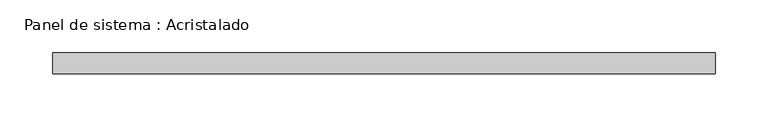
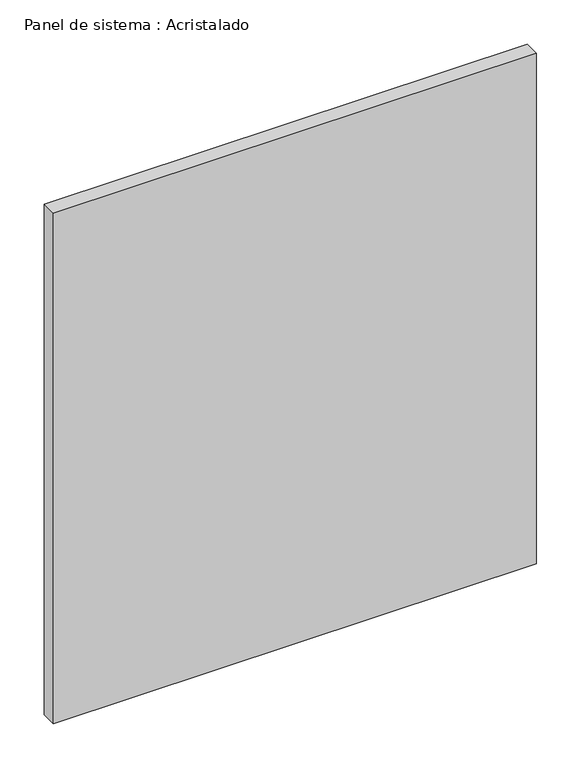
"""IFC4 building model written with IfcOpenShell, lengths in millimetres: plate geometry, Panel de sistema : Acristalado."""

from ifc_helpers import new_model, si_unit, origin, origin_with_axes, place, context, project, spatial, polyline, outline, extrude, source, transform, mapped, element, save


def panel_de_sistema_acristalado_f35fc141(model_context):
    return source(origin(), model_context, "Body", "SweptSolid", [
        extrude(outline(polyline([(313.3333334, -10.0), (-313.3333334, -10.0), (-313.3333334, 10.0), (313.3333334, 10.0), (313.3333334, -10.0)])), origin_with_axes(), (0.0, 0.0, 1.0), 700.0),
    ])


if __name__ == "__main__":
    model = new_model("IFC4")
    model_context = context("Model", 3, world=origin())
    ifc_project = project(units=[si_unit("LENGTHUNIT", "METRE", prefix="MILLI")], contexts=[model_context])
    site = spatial("IfcSite", under=ifc_project)
    building = spatial("IfcBuilding", under=site)
    placement = place(None, origin())
    panel_de_sistema_acristalado_shape = panel_de_sistema_acristalado_f35fc141(model_context)
    element("IfcPlate", 1, ObjectType="Panel de sistema : Acristalado", at=placement, inside=building, context=model_context, shape_type="MappedRepresentation", body=[
        mapped(panel_de_sistema_acristalado_shape, transform((0.0, 0.0, 0.0), x_axis=(1.0, 0.0, 0.0), y_axis=(0.0, 1.0, 0.0), z_axis=(0.0, 0.0, 1.0))),
    ])
    save(model, "model.ifc")
